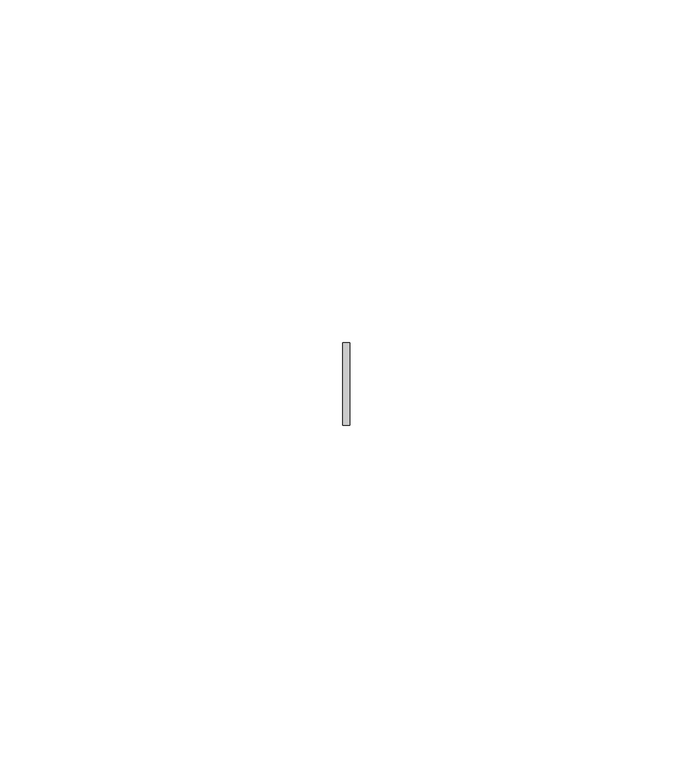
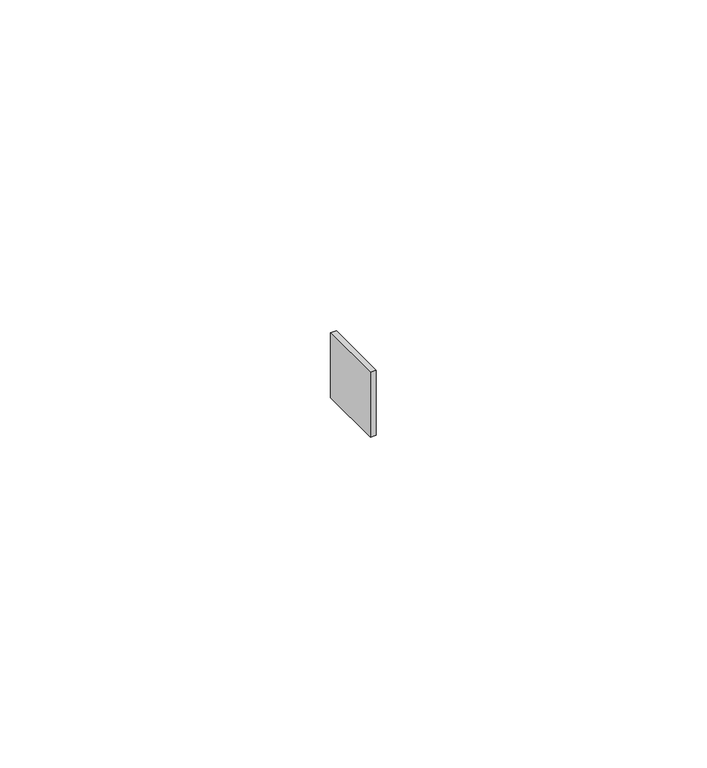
"""IFC4 building model written with IfcOpenShell, lengths in millimetres: duct fitting geometry, Заглушка кабель канала КМЗ : Заглушка КМЗ."""

from ifc_helpers import new_model, si_unit, frame, origin, place, context, project, spatial, polyline, outline, extrude, source, transform, mapped, element, save


def duct_fitting_348c0719(model_context):
    return source(origin(), model_context, "Body", "SweptSolid", [
        extrude(outline(polyline([(1.0, 6.0), (1.0, -6.0), (0.0, -6.0), (0.0, 6.0), (1.0, 6.0)])), frame((0.0, 0.0, -6.0), z_axis=(0.0, 0.0, 1.0), x_axis=(1.0, 0.0, 0.0)), (0.0, 0.0, 1.0), 12.0),
    ])


if __name__ == "__main__":
    model = new_model("IFC4")
    model_context = context("Model", 3, world=origin())
    ifc_project = project(units=[si_unit("LENGTHUNIT", "METRE", prefix="MILLI")], contexts=[model_context])
    site = spatial("IfcSite", under=ifc_project)
    building = spatial("IfcBuilding", under=site)
    placement = place(None, origin())
    duct_fitting_shape = duct_fitting_348c0719(model_context)
    element("IfcDuctFitting", 1, ObjectType="Заглушка кабель канала КМЗ : Заглушка КМЗ", at=placement, inside=building, context=model_context, shape_type="MappedRepresentation", body=[
        mapped(duct_fitting_shape, transform((0.0, 0.0, 0.0), x_axis=(1.0, 0.0, 0.0), y_axis=(0.0, 1.0, 0.0), z_axis=(0.0, 0.0, 1.0))),
    ])
    save(model, "model.ifc")
